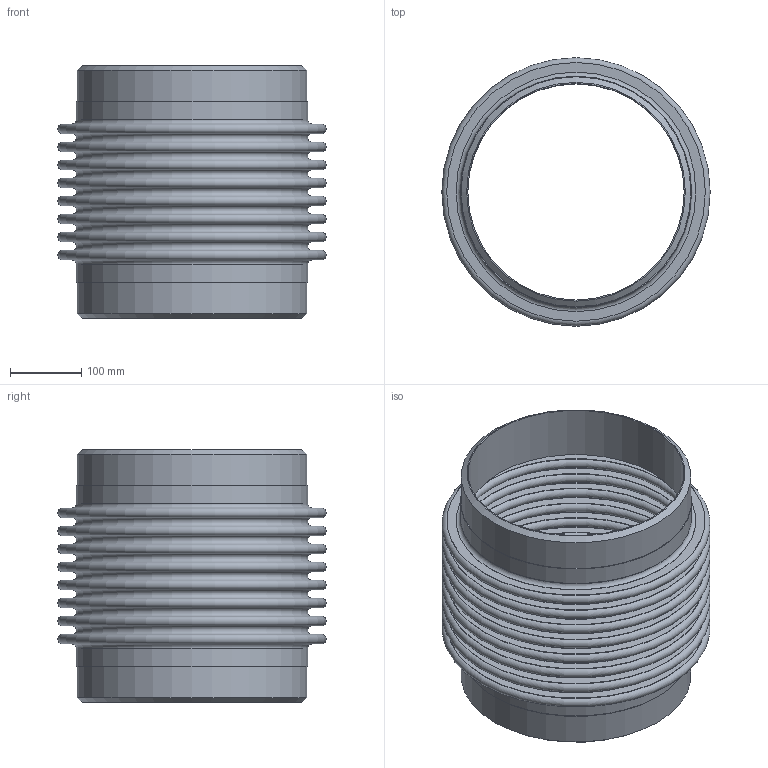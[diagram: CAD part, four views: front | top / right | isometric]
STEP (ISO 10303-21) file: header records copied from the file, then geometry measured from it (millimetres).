
FILE_DESCRIPTION(/* description */ (''),/* implementation_level */ '2;1');
FILE_NAME(/* name */ 'PIPE- 12 - 85 PSIG.stp',/* time_stamp */ '2026-07-23T09:29:17-05:00',/* author */ ('jorgef'),/* organization */ (''),/* preprocessor_version */ 'ST-DEVELOPER v20.1',/* originating_system */ 'Autodesk Inventor 2026',/* authorisation */ '');
FILE_SCHEMA (('AUTOMOTIVE_DESIGN { 1 0 10303 214 3 1 1 }'));
Length unit declared in the file: inch
Products named in the file (1): PIPE-12- 85 PSIG ASSEMBLY PART
Bounding box: 377.82 x 377.82 x 355.6 mm (x, y, z)
Volume: 1969784.5 mm3; surface area: 1507751.1 mm2
Topology: 1 solids, 1 shells, 80 faces, 126 edges, 84 vertices
Faces by surface type: plane 38, torus 34, cylinder 6, cone 2
Full cylindrical faces by diameter (mm): 304.8 x2, 323.85 x2, 325.679 x2
Entity records: 2035 total; most frequent: DIRECTION 406, CARTESIAN_POINT 291, ORIENTED_EDGE 252, AXIS2_PLACEMENT_3D 199, EDGE_CURVE 126, EDGE_LOOP 118, CIRCLE 118, VERTEX_POINT 84
